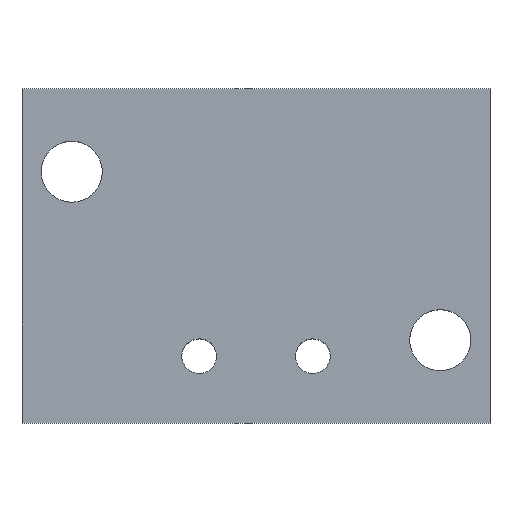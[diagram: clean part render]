
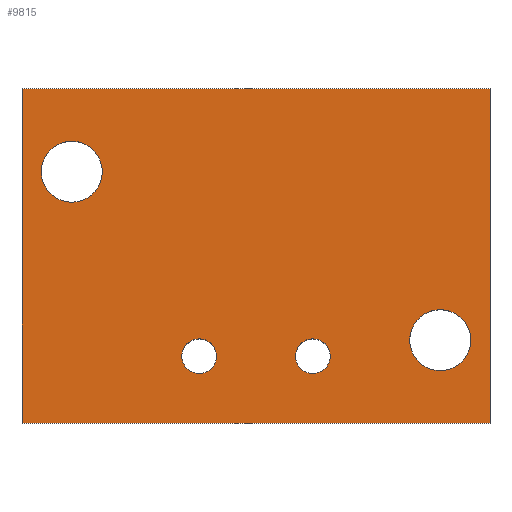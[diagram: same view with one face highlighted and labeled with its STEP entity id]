
A CAD part, top view. The second image highlights one B-rep face of the part: STEP entity #9815.
In plain terms, the highlighted planar face has unit normal (0, 0, 1).
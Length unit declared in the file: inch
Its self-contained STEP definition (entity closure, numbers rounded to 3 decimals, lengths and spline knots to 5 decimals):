
#4285 = DIRECTION ( 'NONE',  ( 1., 0., 0. ) ) ;
#4286 = DIRECTION ( 'NONE',  ( 0., 0., 1. ) ) ;
#4287 = CARTESIAN_POINT ( 'NONE',  ( 0.91756, 0.96263, 0.25 ) ) ;
#4288 = PLANE ( 'NONE',  #13020 ) ;
#6364 = CARTESIAN_POINT ( 'NONE',  ( 0.84571, 0.02267, 0.25 ) ) ;
#6366 = CARTESIAN_POINT ( 'NONE',  ( 0.61736, 0.02267, 0.25 ) ) ;
#6375 = CARTESIAN_POINT ( 'NONE',  ( -0.10498, -0.03737, 0.25 ) ) ;
#6378 = CARTESIAN_POINT ( 'NONE',  ( 0.1901, -0.03737, 0.25 ) ) ;
#6380 = CARTESIAN_POINT ( 'NONE',  ( -0.76059, 0.65259, 0.25 ) ) ;
#6394 = CARTESIAN_POINT ( 'NONE',  ( -0.53224, 0.65259, 0.25 ) ) ;
#6398 = CARTESIAN_POINT ( 'NONE',  ( -0.2349, -0.03737, 0.25 ) ) ;
#6399 = CARTESIAN_POINT ( 'NONE',  ( 0.32002, -0.03737, 0.25 ) ) ;
#6713 = CARTESIAN_POINT ( 'NONE',  ( 0.91756, 0.96263, 0.25 ) ) ;
#6744 = CARTESIAN_POINT ( 'NONE',  ( 0.91756, -0.28737, 0.25 ) ) ;
#6760 = CARTESIAN_POINT ( 'NONE',  ( -0.83244, 0.96263, 0.25 ) ) ;
#6792 = CARTESIAN_POINT ( 'NONE',  ( -0.83244, -0.28737, 0.25 ) ) ;
#7119 = EDGE_CURVE ( 'NONE', #14012, #14049, #14927, .T. ) ;
#7123 = EDGE_CURVE ( 'NONE', #14093, #14088, #14933, .T. ) ;
#7125 = EDGE_CURVE ( 'NONE', #13989, #14064, #14936, .T. ) ;
#7128 = EDGE_CURVE ( 'NONE', #14055, #13972, #14940, .T. ) ;
#9131 = DIRECTION ( 'NONE',  ( -1., 0., 0. ) ) ;
#9132 = DIRECTION ( 'NONE',  ( 0., 0., -1. ) ) ;
#9133 = CARTESIAN_POINT ( 'NONE',  ( -0.64642, 0.65259, 0.25 ) ) ;
#9135 = DIRECTION ( 'NONE',  ( -1., 0., 0. ) ) ;
#9136 = DIRECTION ( 'NONE',  ( 0., 0., -1. ) ) ;
#9139 = CARTESIAN_POINT ( 'NONE',  ( 0.73154, 0.02267, 0.25 ) ) ;
#9140 = DIRECTION ( 'NONE',  ( 1., 0., 0. ) ) ;
#9141 = DIRECTION ( 'NONE',  ( 0., 0., 1. ) ) ;
#9142 = CARTESIAN_POINT ( 'NONE',  ( -0.16994, -0.03737, 0.25 ) ) ;
#9143 = DIRECTION ( 'NONE',  ( 1., 0., 0. ) ) ;
#9144 = DIRECTION ( 'NONE',  ( 0., 0., 1. ) ) ;
#9145 = CARTESIAN_POINT ( 'NONE',  ( 0.25506, -0.03737, 0.25 ) ) ;
#9146 = DIRECTION ( 'NONE',  ( 1., 0., 0. ) ) ;
#9147 = CARTESIAN_POINT ( 'NONE',  ( 0.91756, -0.28737, 0.25 ) ) ;
#9148 = DIRECTION ( 'NONE',  ( 0., -1., 0. ) ) ;
#9149 = CARTESIAN_POINT ( 'NONE',  ( -0.83244, -0.28737, 0.25 ) ) ;
#9343 = DIRECTION ( 'NONE',  ( -1., 0., 0. ) ) ;
#9344 = CARTESIAN_POINT ( 'NONE',  ( 0.91756, 0.96263, 0.25 ) ) ;
#9352 = DIRECTION ( 'NONE',  ( 0., 1., 0. ) ) ;
#9354 = CARTESIAN_POINT ( 'NONE',  ( 0.91756, -0.28737, 0.25 ) ) ;
#9815 = ADVANCED_FACE ( 'NONE', ( #14627, #14628, #14629, #14630, #14631 ), #4288, .T. ) ;
#12187 = VERTEX_POINT ( 'NONE', #6792 ) ;
#12219 = VERTEX_POINT ( 'NONE', #6760 ) ;
#12235 = VERTEX_POINT ( 'NONE', #6744 ) ;
#12264 = VERTEX_POINT ( 'NONE', #6713 ) ;
#12626 = LINE ( 'NONE', #9354, #12627 ) ;
#12627 = VECTOR ( 'NONE', #9352, 39.37008 ) ;
#12632 = LINE ( 'NONE', #9344, #12633 ) ;
#12633 = VECTOR ( 'NONE', #9343, 39.37008 ) ;
#12694 = LINE ( 'NONE', #9149, #12695 ) ;
#12695 = VECTOR ( 'NONE', #9148, 39.37008 ) ;
#12696 = LINE ( 'NONE', #9147, #12697 ) ;
#12697 = VECTOR ( 'NONE', #9146, 39.37008 ) ;
#12698 = CIRCLE ( 'NONE', #13078, 0.06496 ) ;
#12699 = CIRCLE ( 'NONE', #13079, 0.06496 ) ;
#12700 = CIRCLE ( 'NONE', #13080, 0.11417 ) ;
#12702 = CIRCLE ( 'NONE', #13081, 0.11417 ) ;
#13020 = AXIS2_PLACEMENT_3D ( 'NONE', #4287, #4286, #4285 ) ;
#13078 = AXIS2_PLACEMENT_3D ( 'NONE', #9145, #9144, #9143 ) ;
#13079 = AXIS2_PLACEMENT_3D ( 'NONE', #9142, #9141, #9140 ) ;
#13080 = AXIS2_PLACEMENT_3D ( 'NONE', #9139, #9136, #9135 ) ;
#13081 = AXIS2_PLACEMENT_3D ( 'NONE', #9133, #9132, #9131 ) ;
#13972 = VERTEX_POINT ( 'NONE', #6399 ) ;
#13989 = VERTEX_POINT ( 'NONE', #6398 ) ;
#14012 = VERTEX_POINT ( 'NONE', #6394 ) ;
#14049 = VERTEX_POINT ( 'NONE', #6380 ) ;
#14055 = VERTEX_POINT ( 'NONE', #6378 ) ;
#14064 = VERTEX_POINT ( 'NONE', #6375 ) ;
#14088 = VERTEX_POINT ( 'NONE', #6366 ) ;
#14093 = VERTEX_POINT ( 'NONE', #6364 ) ;
#14215 = DIRECTION ( 'NONE',  ( 1., 0., 0. ) ) ;
#14216 = DIRECTION ( 'NONE',  ( 0., 0., 1. ) ) ;
#14217 = CARTESIAN_POINT ( 'NONE',  ( 0.25506, -0.03737, 0.25 ) ) ;
#14225 = DIRECTION ( 'NONE',  ( 1., 0., 0. ) ) ;
#14226 = DIRECTION ( 'NONE',  ( 0., 0., 1. ) ) ;
#14227 = CARTESIAN_POINT ( 'NONE',  ( -0.16994, -0.03737, 0.25 ) ) ;
#14230 = DIRECTION ( 'NONE',  ( -1., 0., 0. ) ) ;
#14231 = DIRECTION ( 'NONE',  ( 0., 0., -1. ) ) ;
#14232 = CARTESIAN_POINT ( 'NONE',  ( 0.73154, 0.02267, 0.25 ) ) ;
#14244 = DIRECTION ( 'NONE',  ( -1., 0., 0. ) ) ;
#14245 = DIRECTION ( 'NONE',  ( 0., 0., -1. ) ) ;
#14247 = CARTESIAN_POINT ( 'NONE',  ( -0.64642, 0.65259, 0.25 ) ) ;
#14627 = FACE_BOUND ( 'NONE', #18736, .T. ) ;
#14628 = FACE_BOUND ( 'NONE', #18737, .T. ) ;
#14629 = FACE_BOUND ( 'NONE', #18738, .T. ) ;
#14630 = FACE_BOUND ( 'NONE', #18739, .T. ) ;
#14631 = FACE_OUTER_BOUND ( 'NONE', #18740, .T. ) ;
#14927 = CIRCLE ( 'NONE', #16660, 0.11417 ) ;
#14933 = CIRCLE ( 'NONE', #16662, 0.11417 ) ;
#14936 = CIRCLE ( 'NONE', #16663, 0.06496 ) ;
#14940 = CIRCLE ( 'NONE', #16665, 0.06496 ) ;
#16655 = EDGE_CURVE ( 'NONE', #12235, #12264, #12626, .T. ) ;
#16658 = EDGE_CURVE ( 'NONE', #12264, #12219, #12632, .T. ) ;
#16660 = AXIS2_PLACEMENT_3D ( 'NONE', #14247, #14245, #14244 ) ;
#16662 = AXIS2_PLACEMENT_3D ( 'NONE', #14232, #14231, #14230 ) ;
#16663 = AXIS2_PLACEMENT_3D ( 'NONE', #14227, #14226, #14225 ) ;
#16665 = AXIS2_PLACEMENT_3D ( 'NONE', #14217, #14216, #14215 ) ;
#16807 = EDGE_CURVE ( 'NONE', #12219, #12187, #12694, .T. ) ;
#16808 = EDGE_CURVE ( 'NONE', #12187, #12235, #12696, .T. ) ;
#16809 = EDGE_CURVE ( 'NONE', #13972, #14055, #12698, .T. ) ;
#16810 = EDGE_CURVE ( 'NONE', #14064, #13989, #12699, .T. ) ;
#16811 = EDGE_CURVE ( 'NONE', #14088, #14093, #12700, .T. ) ;
#16812 = EDGE_CURVE ( 'NONE', #14049, #14012, #12702, .T. ) ;
#18736 = EDGE_LOOP ( 'NONE', ( #18792, #18793 ) ) ;
#18737 = EDGE_LOOP ( 'NONE', ( #18794, #18795 ) ) ;
#18738 = EDGE_LOOP ( 'NONE', ( #18796, #18797 ) ) ;
#18739 = EDGE_LOOP ( 'NONE', ( #18798, #18799 ) ) ;
#18740 = EDGE_LOOP ( 'NONE', ( #18800, #18801, #18802, #18803 ) ) ;
#18792 = ORIENTED_EDGE ( 'NONE', *, *, #16809, .F. ) ;
#18793 = ORIENTED_EDGE ( 'NONE', *, *, #7128, .F. ) ;
#18794 = ORIENTED_EDGE ( 'NONE', *, *, #16810, .F. ) ;
#18795 = ORIENTED_EDGE ( 'NONE', *, *, #7125, .F. ) ;
#18796 = ORIENTED_EDGE ( 'NONE', *, *, #16811, .T. ) ;
#18797 = ORIENTED_EDGE ( 'NONE', *, *, #7123, .T. ) ;
#18798 = ORIENTED_EDGE ( 'NONE', *, *, #16812, .T. ) ;
#18799 = ORIENTED_EDGE ( 'NONE', *, *, #7119, .T. ) ;
#18800 = ORIENTED_EDGE ( 'NONE', *, *, #16655, .T. ) ;
#18801 = ORIENTED_EDGE ( 'NONE', *, *, #16658, .T. ) ;
#18802 = ORIENTED_EDGE ( 'NONE', *, *, #16807, .T. ) ;
#18803 = ORIENTED_EDGE ( 'NONE', *, *, #16808, .T. ) ;
